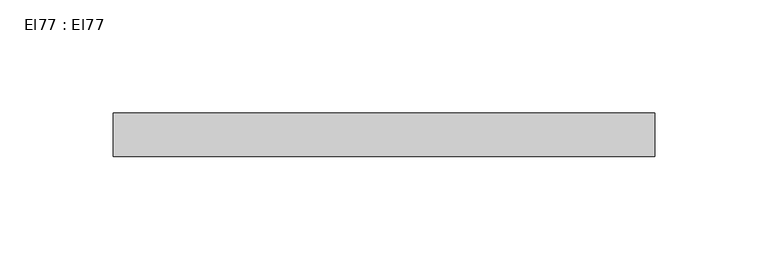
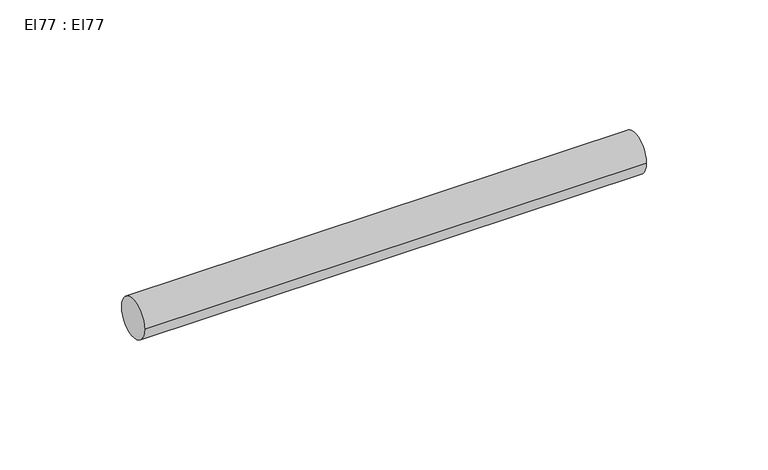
"""IFC4 building model written with IfcOpenShell, lengths in millimetres: cable carrier segment geometry, El77 : El77."""

from ifc_helpers import new_model, si_unit, point, frame, frame_2d, origin, place, context, project, spatial, circle_curve, trimmed, segment, composite_curve, outline, extrude, source, transform, mapped, element, save


def el77_el77_48f16dd7(model_context):
    return source(origin(), model_context, "Body", "SweptSolid", [
        extrude(outline(composite_curve([segment(trimmed(circle_curve(frame_2d((15372.1, 1200.0)), 9.5), [point((15362.6, 1200.0))], [point((15381.6, 1200.0))], False, "CARTESIAN"), True, "CONTINUOUS"), segment(trimmed(circle_curve(frame_2d((15372.1, 1200.0)), 9.5), [point((15381.6, 1200.0))], [point((15362.6, 1200.0))], False, "CARTESIAN"), True, "CONTINUOUS")], self_intersect=False)), frame((19692.252, 0.0, 0.0), z_axis=(1.0, 0.0, 0.0), x_axis=(0.0, 1.0, 0.0)), (0.0, 0.0, 1.0), 238.496),
    ])


if __name__ == "__main__":
    model = new_model("IFC4")
    model_context = context("Model", 3, world=origin())
    ifc_project = project(units=[si_unit("LENGTHUNIT", "METRE", prefix="MILLI")], contexts=[model_context])
    site = spatial("IfcSite", under=ifc_project)
    building = spatial("IfcBuilding", under=site)
    placement = place(None, origin())
    el77_el77_shape = el77_el77_48f16dd7(model_context)
    element("IfcCableCarrierSegment", 1, ObjectType="El77 : El77", at=placement, inside=building, context=model_context, shape_type="MappedRepresentation", body=[
        mapped(el77_el77_shape, transform((0.0, 0.0, 0.0), x_axis=(1.0, 0.0, 0.0), y_axis=(0.0, 1.0, 0.0), z_axis=(0.0, 0.0, 1.0))),
    ])
    save(model, "model.ifc")
